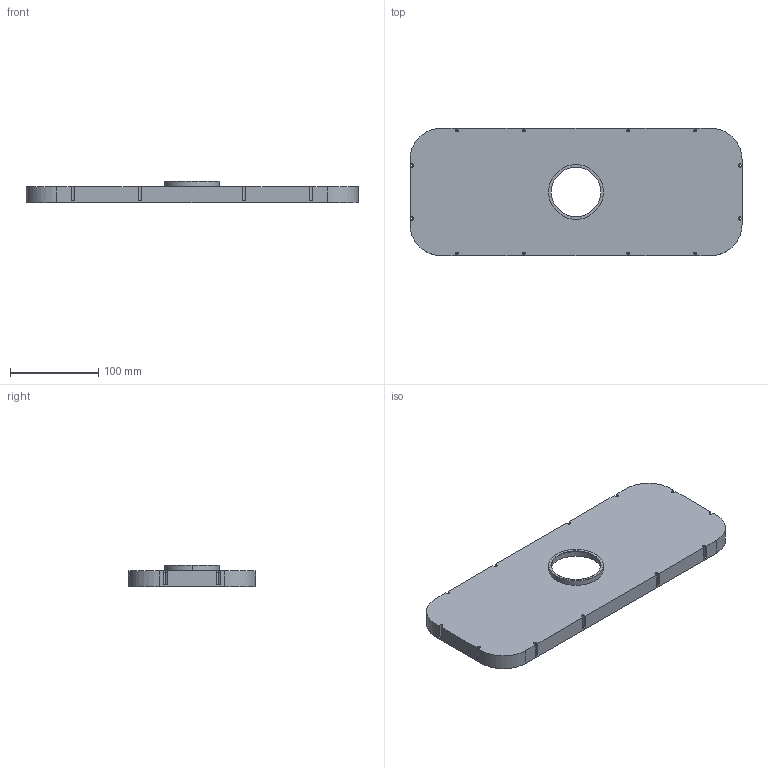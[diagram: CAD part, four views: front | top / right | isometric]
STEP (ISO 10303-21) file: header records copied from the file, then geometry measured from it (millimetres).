
FILE_DESCRIPTION(('STEP AP214'),'1');
FILE_NAME('C:/Users/mashimo/Documents/次世代エンジン/ボア６ｃｍ/TurboCAD/3D/tmp0.STEP','2025-07-11T08:22:08',(' '),(' '),'Spatial InterOp 3D',' ',' ');
FILE_SCHEMA(('automotive_design'));
Length unit declared in the file: millimetre
Products named in the file (1): 1
Bounding box: 376 x 144 x 24 mm (x, y, z)
Volume: 134378.6 mm3; surface area: 138933.5 mm2
Topology: 1 solids, 1 shells, 131 faces, 378 edges, 252 vertices
Faces by surface type: cylinder 70, plane 61
Entity records: 5476 total; most frequent: DIRECTION 782, CARTESIAN_POINT 762, ORIENTED_EDGE 756, EDGE_CURVE 378, AXIS2_PLACEMENT_3D 272, VERTEX_POINT 252, LINE 238, VECTOR 238
